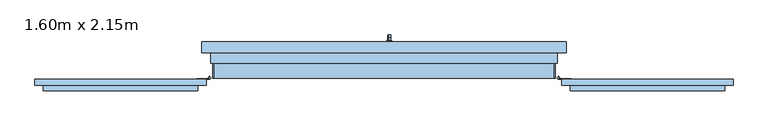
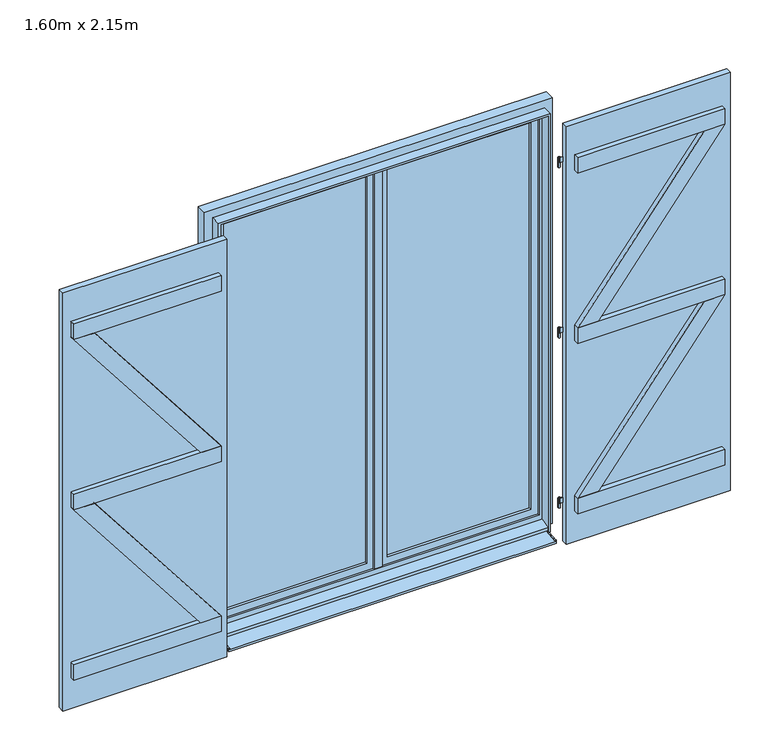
"""IFC4 building model written with IfcOpenShell, lengths in millimetres: window geometry, PF 2 Vantaux droits - Volets et petits bois : 1.60m x 2.15m."""

from ifc_helpers import new_model, si_unit, point, frame, frame_2d, origin, place, context, project, spatial, polyline, circle_curve, trimmed, segment, composite_curve, outline, extrude, faceted_brep, source, transform, mapped, element, save
from ifc_brep_helpers import plane_surface, cylinder_surface, advanced_brep


def window_1_60m_x_2_15m_4a639791(model_context):
    return source(origin(), model_context, "Body", "SolidModel", [
        extrude(outline(polyline([(-1630.0, -93.0), (-830.0, -93.0), (-830.0, -123.0), (-1630.0, -123.0), (-1630.0, -93.0)])), frame((0.0, 0.0, 25.0), z_axis=(0.0, 0.0, 1.0), x_axis=(1.0, 0.0, 0.0)), (0.0, 0.0, 1.0), 2160.0),
        advanced_brep(
        [(-810.0, -88.0, 225.0), (-820.0, -88.0, 225.0), (-810.0, -88.0, 200.0), (-820.0, -88.0, 200.0), (-817.0, -83.4174243, 205.0), (-813.0, -83.4174243, 205.0), (-813.0, -83.4174243, 215.0), (-817.0, -83.4174243, 215.0), (-813.0, -80.0, 215.0), (-817.0, -80.0, 215.0), (-817.0, -80.0, 205.0), (-813.0, -80.0, 205.0)],
        [
            (0, 1, circle_curve(frame((-815.0, -88.0, 225.0), z_axis=(0.0, 0.0, 1.0), x_axis=(-1.0, 0.0, 0.0)), 5.0)),
            (1, 0, circle_curve(frame((-815.0, -88.0, 225.0), z_axis=(0.0, 0.0, 1.0), x_axis=(-1.0, 0.0, 0.0)), 5.0)),
            (2, 3, circle_curve(frame((-815.0, -88.0, 200.0), z_axis=(0.0, 0.0, -1.0), x_axis=(-1.0, 0.0, 0.0)), 5.0)),
            (3, 2, circle_curve(frame((-815.0, -88.0, 200.0), z_axis=(0.0, 0.0, -1.0), x_axis=(-1.0, 0.0, 0.0)), 5.0)),
            (0, 2),
            (3, 1),
            (4, 5, circle_curve(frame((-815.0, -88.0, 205.0), z_axis=(0.0, 0.0, -1.0), x_axis=(-1.0, 0.0, 0.0)), 5.0)),
            (5, 6),
            (6, 7, circle_curve(frame((-815.0, -88.0, 215.0), z_axis=(0.0, 0.0, 1.0), x_axis=(-1.0, 0.0, 0.0)), 5.0)),
            (7, 4),
            (8, 9),
            (9, 7),
            (6, 8),
            (10, 11),
            (11, 5),
            (4, 10),
            (9, 10),
            (11, 8),
        ],
        [
            plane_surface(frame((-820.0, -88.0, 225.0), z_axis=(0.0, 0.0, 1.0), x_axis=(0.0, -1.0, 0.0))),
            plane_surface(frame((-820.0, -88.0, 200.0), z_axis=(0.0, 0.0, -1.0), x_axis=(0.0, 1.0, 0.0))),
            cylinder_surface(frame((-815.0, -88.0, 200.0), z_axis=(0.0, 0.0, 1.0), x_axis=(-1.0, 0.0, 0.0)), 5.0),
            plane_surface(frame((-817.0, -80.0, 215.0), z_axis=(0.0, 0.0, 1.0), x_axis=(0.0, -1.0, 0.0))),
            plane_surface(frame((-817.0, -80.0, 205.0), z_axis=(0.0, 0.0, -1.0), x_axis=(0.0, 1.0, 0.0))),
            plane_surface(frame((-817.0, -80.0, 215.0), z_axis=(-1.0, 0.0, 0.0), x_axis=(0.0, 0.0, -1.0))),
            plane_surface(frame((-813.0, -85.0, 215.0), z_axis=(1.0, 0.0, 0.0), x_axis=(0.0, 0.0, -1.0))),
            plane_surface(frame((-813.0, -80.0, 215.0), z_axis=(0.0, 1.0, 0.0), x_axis=(0.0, 0.0, -1.0))),
        ],
        [
            (0, [[1, 2]]),
            (1, [[3, 4]]),
            (2, [[-1, 5, -4, 6], [7, 8, 9, 10]]),
            (2, [[-2, -6, -3, -5]]),
            (3, [[11, 12, -9, 13]]),
            (4, [[14, 15, -7, 16]]),
            (5, [[17, -16, -10, -12]]),
            (6, [[18, -13, -8, -15]]),
            (7, [[-11, -18, -14, -17]]),
        ],
    ),
        extrude(outline(composite_curve([segment(polyline([(-815.0, -93.0), (-874.3092325, -93.0), (-874.3092325, -90.5), (-815.0, -90.5)]), True, "CONTINUOUS"), segment(trimmed(circle_curve(frame_2d((-815.0, -88.0)), 2.5), [point((-815.0, -90.5))], [point((-817.5, -88.0))], True, "CARTESIAN"), True, "CONTINUOUS"), segment(polyline([(-817.5, -88.0), (-820.0, -88.0)]), True, "CONTINUOUS"), segment(trimmed(circle_curve(frame_2d((-815.0, -88.0)), 5.0), [point((-820.0, -88.0))], [point((-815.0, -93.0))], False, "CARTESIAN"), True, "CONTINUOUS")], self_intersect=False)), frame((0.0, 0.0, 225.0), z_axis=(0.0, 0.0, 1.0), x_axis=(1.0, 0.0, 0.0)), (0.0, 0.0, 1.0), 25.0),
        extrude(outline(composite_curve([segment(trimmed(circle_curve(frame_2d((-815.0, -88.0)), 2.5), [point((-812.5, -88.0))], [point((-817.5, -88.0))], False, "CARTESIAN"), True, "CONTINUOUS"), segment(trimmed(circle_curve(frame_2d((-815.0, -88.0)), 2.5), [point((-817.5, -88.0))], [point((-812.5, -88.0))], False, "CARTESIAN"), True, "CONTINUOUS")], self_intersect=False)), frame((0.0, 0.0, 225.0), z_axis=(0.0, 0.0, 1.0), x_axis=(1.0, 0.0, 0.0)), (0.0, 0.0, 1.0), 25.0),
        advanced_brep(
        [(-810.0, -88.0, 1985.0), (-820.0, -88.0, 1985.0), (-810.0, -88.0, 1960.0), (-820.0, -88.0, 1960.0), (-813.0, -83.4174243, 1975.0), (-817.0, -83.4174243, 1975.0), (-817.0, -83.4174243, 1965.0), (-813.0, -83.4174243, 1965.0), (-813.0, -80.0, 1975.0), (-817.0, -80.0, 1975.0), (-813.0, -80.0, 1965.0), (-817.0, -80.0, 1965.0)],
        [
            (0, 1, circle_curve(frame((-815.0, -88.0, 1985.0), z_axis=(0.0, 0.0, 1.0), x_axis=(-1.0, 0.0, 0.0)), 5.0)),
            (1, 0, circle_curve(frame((-815.0, -88.0, 1985.0), z_axis=(0.0, 0.0, 1.0), x_axis=(-1.0, 0.0, 0.0)), 5.0)),
            (2, 3, circle_curve(frame((-815.0, -88.0, 1960.0), z_axis=(0.0, 0.0, -1.0), x_axis=(-1.0, 0.0, 0.0)), 5.0)),
            (3, 2, circle_curve(frame((-815.0, -88.0, 1960.0), z_axis=(0.0, 0.0, -1.0), x_axis=(-1.0, 0.0, 0.0)), 5.0)),
            (0, 2),
            (3, 1),
            (4, 5, circle_curve(frame((-815.0, -88.0, 1975.0), z_axis=(0.0, 0.0, 1.0), x_axis=(-1.0, 0.0, 0.0)), 5.0)),
            (5, 6),
            (6, 7, circle_curve(frame((-815.0, -88.0, 1965.0), z_axis=(0.0, 0.0, -1.0), x_axis=(-1.0, 0.0, 0.0)), 5.0)),
            (7, 4),
            (8, 9),
            (9, 5),
            (4, 8),
            (10, 7),
            (6, 11),
            (11, 10),
            (8, 10),
            (11, 9),
        ],
        [
            plane_surface(frame((-820.0, -88.0, 1985.0), z_axis=(0.0, 0.0, 1.0), x_axis=(0.0, -1.0, 0.0))),
            plane_surface(frame((-820.0, -88.0, 1960.0), z_axis=(0.0, 0.0, -1.0), x_axis=(0.0, 1.0, 0.0))),
            cylinder_surface(frame((-815.0, -88.0, 1960.0), z_axis=(0.0, 0.0, 1.0), x_axis=(-1.0, 0.0, 0.0)), 5.0),
            plane_surface(frame((-813.0, -80.0, 1975.0), z_axis=(0.0, 0.0, 1.0), x_axis=(-1.0, 0.0, 0.0))),
            plane_surface(frame((-813.0, -80.0, 1965.0), z_axis=(0.0, 0.0, -1.0), x_axis=(1.0, 0.0, 0.0))),
            plane_surface(frame((-813.0, -80.0, 1975.0), z_axis=(0.0, 1.0, 0.0), x_axis=(0.0, 0.0, -1.0))),
            plane_surface(frame((-817.0, -80.0, 1975.0), z_axis=(-1.0, 0.0, 0.0), x_axis=(0.0, 0.0, -1.0))),
            plane_surface(frame((-813.0, -83.4174243, 1975.0), z_axis=(1.0, 0.0, 0.0), x_axis=(0.0, 0.0, -1.0))),
        ],
        [
            (0, [[1, 2]]),
            (1, [[3, 4]]),
            (2, [[-1, 5, -4, 6], [7, 8, 9, 10]]),
            (2, [[-2, -6, -3, -5]]),
            (3, [[11, 12, -7, 13]]),
            (4, [[14, -9, 15, 16]]),
            (5, [[-11, 17, -16, 18]]),
            (6, [[-12, -18, -15, -8]]),
            (7, [[-13, -10, -14, -17]]),
        ],
    ),
        extrude(outline(polyline([(-813.0, -80.0), (-813.0, -83.4174243), (-817.0, -83.4174243), (-817.0, -80.0), (-813.0, -80.0)])), frame((0.0, 0.0, 1085.0), z_axis=(0.0, 0.0, 1.0), x_axis=(1.0, 0.0, 0.0)), (0.0, 0.0, 1.0), 10.0),
        extrude(outline(composite_curve([segment(polyline([(-815.0, -93.0), (-874.3092325, -93.0), (-874.3092325, -90.5), (-815.0, -90.5)]), True, "CONTINUOUS"), segment(trimmed(circle_curve(frame_2d((-815.0, -88.0)), 2.5), [point((-815.0, -90.5))], [point((-812.5, -88.0))], True, "CARTESIAN"), True, "CONTINUOUS"), segment(trimmed(circle_curve(frame_2d((-815.0, -88.0)), 2.5), [point((-812.5, -88.0))], [point((-817.5, -88.0))], True, "CARTESIAN"), True, "CONTINUOUS"), segment(polyline([(-817.5, -88.0), (-820.0, -88.0)]), True, "CONTINUOUS"), segment(trimmed(circle_curve(frame_2d((-815.0, -88.0)), 5.0), [point((-820.0, -88.0))], [point((-815.0, -93.0))], False, "CARTESIAN"), True, "CONTINUOUS")], self_intersect=False)), frame((0.0, 0.0, 1105.0), z_axis=(0.0, 0.0, 1.0), x_axis=(1.0, 0.0, 0.0)), (0.0, 0.0, 1.0), 25.0),
        extrude(outline(composite_curve([segment(trimmed(circle_curve(frame_2d((-815.0, -88.0)), 2.5), [point((-812.5, -88.0))], [point((-817.5, -88.0))], False, "CARTESIAN"), True, "CONTINUOUS"), segment(trimmed(circle_curve(frame_2d((-815.0, -88.0)), 2.5), [point((-817.5, -88.0))], [point((-812.5, -88.0))], False, "CARTESIAN"), True, "CONTINUOUS")], self_intersect=False)), frame((0.0, 0.0, 1105.0), z_axis=(0.0, 0.0, 1.0), x_axis=(1.0, 0.0, 0.0)), (0.0, 0.0, 1.0), 25.0),
        extrude(outline(composite_curve([segment(trimmed(circle_curve(frame_2d((-815.0, -88.0)), 5.0), [point((-810.0, -88.0))], [point((-820.0, -88.0))], False, "CARTESIAN"), True, "CONTINUOUS"), segment(trimmed(circle_curve(frame_2d((-815.0, -88.0)), 5.0), [point((-820.0, -88.0))], [point((-810.0, -88.0))], False, "CARTESIAN"), True, "CONTINUOUS")], self_intersect=False)), frame((0.0, 0.0, 1080.0), z_axis=(0.0, 0.0, 1.0), x_axis=(1.0, 0.0, 0.0)), (0.0, 0.0, 1.0), 25.0),
        extrude(outline(composite_curve([segment(polyline([(-815.0, -93.0), (-874.3092325, -93.0), (-874.3092325, -90.5), (-815.0, -90.5)]), True, "CONTINUOUS"), segment(trimmed(circle_curve(frame_2d((-815.0, -88.0)), 2.5), [point((-815.0, -90.5))], [point((-817.5, -88.0))], True, "CARTESIAN"), True, "CONTINUOUS"), segment(polyline([(-817.5, -88.0), (-820.0, -88.0)]), True, "CONTINUOUS"), segment(trimmed(circle_curve(frame_2d((-815.0, -88.0)), 5.0), [point((-820.0, -88.0))], [point((-815.0, -93.0))], False, "CARTESIAN"), True, "CONTINUOUS")], self_intersect=False)), frame((0.0, 0.0, 1985.0), z_axis=(0.0, 0.0, 1.0), x_axis=(1.0, 0.0, 0.0)), (0.0, 0.0, 1.0), 25.0),
        extrude(outline(composite_curve([segment(trimmed(circle_curve(frame_2d((-815.0, -88.0)), 2.5), [point((-812.5, -88.0))], [point((-817.5, -88.0))], False, "CARTESIAN"), True, "CONTINUOUS"), segment(trimmed(circle_curve(frame_2d((-815.0, -88.0)), 2.5), [point((-817.5, -88.0))], [point((-812.5, -88.0))], False, "CARTESIAN"), True, "CONTINUOUS")], self_intersect=False)), frame((0.0, 0.0, 1985.0), z_axis=(0.0, 0.0, 1.0), x_axis=(1.0, 0.0, 0.0)), (0.0, 0.0, 1.0), 25.0),
        extrude(outline(polyline([(1945.0, -1488.8573102), (1945.0, -1590.0), (1145.0, -971.1426898), (1145.0, -870.0), (1945.0, -1488.8573102)])), frame((0.0, -148.0, 0.0), z_axis=(0.0, 1.0, 0.0), x_axis=(0.0, 0.0, 1.0)), (0.0, 0.0, 1.0), 25.0),
        extrude(outline(polyline([(265.0, -971.143415), (265.0, -870.0007252), (1065.0, -1488.8580354), (1065.0, -1590.0007252), (265.0, -971.143415)])), frame((0.0, -148.0, 0.0), z_axis=(0.0, 1.0, 0.0), x_axis=(0.0, 0.0, 1.0)), (0.0, 0.0, 1.0), 25.0),
        extrude(outline(polyline([(-870.0, -148.0), (-1590.0, -148.0), (-1590.0, -123.0), (-870.0, -123.0), (-870.0, -148.0)])), frame((0.0, 0.0, 1945.0), z_axis=(0.0, 0.0, 1.0), x_axis=(1.0, 0.0, 0.0)), (0.0, 0.0, 1.0), 80.0),
        extrude(outline(polyline([(-870.0, -148.0), (-1590.0, -148.0), (-1590.0, -123.0), (-870.0, -123.0), (-870.0, -148.0)])), frame((0.0, 0.0, 185.0), z_axis=(0.0, 0.0, 1.0), x_axis=(1.0, 0.0, 0.0)), (0.0, 0.0, 1.0), 80.0),
        extrude(outline(polyline([(-870.0, -148.0), (-1590.0, -148.0), (-1590.0, -123.0), (-870.0, -123.0), (-870.0, -148.0)])), frame((0.0, 0.0, 1065.0), z_axis=(0.0, 0.0, 1.0), x_axis=(1.0, 0.0, 0.0)), (0.0, 0.0, 1.0), 80.0),
        extrude(outline(polyline([(1630.0, -93.0), (1630.0, -123.0), (830.0, -123.0), (830.0, -93.0), (1630.0, -93.0)])), frame((0.0, 0.0, 25.0), z_axis=(0.0, 0.0, 1.0), x_axis=(1.0, 0.0, 0.0)), (0.0, 0.0, 1.0), 2160.0),
        advanced_brep(
        [(810.0, -88.0, 225.0), (820.0, -88.0, 225.0), (810.0, -88.0, 200.0), (820.0, -88.0, 200.0), (817.0, -83.4174243, 205.0), (817.0, -83.4174243, 215.0), (813.0, -83.4174243, 215.0), (813.0, -83.4174243, 205.0), (813.0, -80.0, 215.0), (817.0, -80.0, 215.0), (817.0, -80.0, 205.0), (813.0, -80.0, 205.0)],
        [
            (0, 1, circle_curve(frame((815.0, -88.0, 225.0), z_axis=(0.0, 0.0, 1.0), x_axis=(1.0, 0.0, 0.0)), 5.0)),
            (1, 0, circle_curve(frame((815.0, -88.0, 225.0), z_axis=(0.0, 0.0, 1.0), x_axis=(1.0, 0.0, 0.0)), 5.0)),
            (2, 3, circle_curve(frame((815.0, -88.0, 200.0), z_axis=(0.0, 0.0, -1.0), x_axis=(1.0, 0.0, 0.0)), 5.0)),
            (3, 2, circle_curve(frame((815.0, -88.0, 200.0), z_axis=(0.0, 0.0, -1.0), x_axis=(1.0, 0.0, 0.0)), 5.0)),
            (1, 3),
            (2, 0),
            (4, 5),
            (5, 6, circle_curve(frame((815.0, -88.0, 215.0), z_axis=(0.0, 0.0, 1.0), x_axis=(1.0, 0.0, 0.0)), 5.0)),
            (6, 7),
            (7, 4, circle_curve(frame((815.0, -88.0, 205.0), z_axis=(0.0, 0.0, -1.0), x_axis=(1.0, 0.0, 0.0)), 5.0)),
            (8, 6),
            (5, 9),
            (9, 8),
            (10, 4),
            (7, 11),
            (11, 10),
            (10, 9),
            (8, 11),
        ],
        [
            plane_surface(frame((820.0, -88.0, 225.0), z_axis=(0.0, 0.0, 1.0), x_axis=(0.0, -1.0, 0.0))),
            plane_surface(frame((820.0, -88.0, 200.0), z_axis=(0.0, 0.0, -1.0), x_axis=(0.0, 1.0, 0.0))),
            cylinder_surface(frame((815.0, -88.0, 200.0), z_axis=(0.0, 0.0, 1.0), x_axis=(1.0, 0.0, 0.0)), 5.0),
            plane_surface(frame((817.0, -80.0, 215.0), z_axis=(0.0, 0.0, 1.0), x_axis=(0.0, -1.0, 0.0))),
            plane_surface(frame((817.0, -80.0, 205.0), z_axis=(0.0, 0.0, -1.0), x_axis=(0.0, 1.0, 0.0))),
            plane_surface(frame((817.0, -80.0, 215.0), z_axis=(1.0, 0.0, 0.0), x_axis=(0.0, 0.0, -1.0))),
            plane_surface(frame((813.0, -85.0, 215.0), z_axis=(-1.0, 0.0, 0.0), x_axis=(0.0, 0.0, -1.0))),
            plane_surface(frame((813.0, -80.0, 215.0), z_axis=(0.0, 1.0, 0.0), x_axis=(0.0, 0.0, -1.0))),
        ],
        [
            (0, [[1, 2]]),
            (1, [[3, 4]]),
            (2, [[5, -3, 6, -2], [7, 8, 9, 10]]),
            (2, [[-6, -4, -5, -1]]),
            (3, [[11, -8, 12, 13]]),
            (4, [[14, -10, 15, 16]]),
            (5, [[-12, -7, -14, 17]]),
            (6, [[-15, -9, -11, 18]]),
            (7, [[-17, -16, -18, -13]]),
        ],
    ),
        extrude(outline(composite_curve([segment(trimmed(circle_curve(frame_2d((815.0, -88.0)), 5.0), [point((815.0, -93.0))], [point((820.0, -88.0))], False, "CARTESIAN"), True, "CONTINUOUS"), segment(polyline([(820.0, -88.0), (817.5, -88.0)]), True, "CONTINUOUS"), segment(trimmed(circle_curve(frame_2d((815.0, -88.0)), 2.5), [point((817.5, -88.0))], [point((815.0, -90.5))], True, "CARTESIAN"), True, "CONTINUOUS"), segment(polyline([(815.0, -90.5), (874.3092325, -90.5), (874.3092325, -93.0), (815.0, -93.0)]), True, "CONTINUOUS")], self_intersect=False)), frame((0.0, 0.0, 225.0), z_axis=(0.0, 0.0, 1.0), x_axis=(1.0, 0.0, 0.0)), (0.0, 0.0, 1.0), 25.0),
        extrude(outline(composite_curve([segment(trimmed(circle_curve(frame_2d((815.0, -88.0)), 2.5), [point((812.5, -88.0))], [point((817.5, -88.0))], False, "CARTESIAN"), True, "CONTINUOUS"), segment(trimmed(circle_curve(frame_2d((815.0, -88.0)), 2.5), [point((817.5, -88.0))], [point((812.5, -88.0))], False, "CARTESIAN"), True, "CONTINUOUS")], self_intersect=False)), frame((0.0, 0.0, 225.0), z_axis=(0.0, 0.0, 1.0), x_axis=(1.0, 0.0, 0.0)), (0.0, 0.0, 1.0), 25.0),
        advanced_brep(
        [(810.0, -88.0, 1985.0), (820.0, -88.0, 1985.0), (810.0, -88.0, 1960.0), (820.0, -88.0, 1960.0), (813.0, -83.4174243, 1975.0), (813.0, -83.4174243, 1965.0), (817.0, -83.4174243, 1965.0), (817.0, -83.4174243, 1975.0), (813.0, -80.0, 1975.0), (817.0, -80.0, 1975.0), (813.0, -80.0, 1965.0), (817.0, -80.0, 1965.0)],
        [
            (0, 1, circle_curve(frame((815.0, -88.0, 1985.0), z_axis=(0.0, 0.0, 1.0), x_axis=(1.0, 0.0, 0.0)), 5.0)),
            (1, 0, circle_curve(frame((815.0, -88.0, 1985.0), z_axis=(0.0, 0.0, 1.0), x_axis=(1.0, 0.0, 0.0)), 5.0)),
            (2, 3, circle_curve(frame((815.0, -88.0, 1960.0), z_axis=(0.0, 0.0, -1.0), x_axis=(1.0, 0.0, 0.0)), 5.0)),
            (3, 2, circle_curve(frame((815.0, -88.0, 1960.0), z_axis=(0.0, 0.0, -1.0), x_axis=(1.0, 0.0, 0.0)), 5.0)),
            (1, 3),
            (2, 0),
            (4, 5),
            (5, 6, circle_curve(frame((815.0, -88.0, 1965.0), z_axis=(0.0, 0.0, -1.0), x_axis=(1.0, 0.0, 0.0)), 5.0)),
            (6, 7),
            (7, 4, circle_curve(frame((815.0, -88.0, 1975.0), z_axis=(0.0, 0.0, 1.0), x_axis=(1.0, 0.0, 0.0)), 5.0)),
            (8, 4),
            (7, 9),
            (9, 8),
            (10, 11),
            (11, 6),
            (5, 10),
            (9, 11),
            (10, 8),
        ],
        [
            plane_surface(frame((820.0, -88.0, 1985.0), z_axis=(0.0, 0.0, 1.0), x_axis=(0.0, -1.0, 0.0))),
            plane_surface(frame((820.0, -88.0, 1960.0), z_axis=(0.0, 0.0, -1.0), x_axis=(0.0, 1.0, 0.0))),
            cylinder_surface(frame((815.0, -88.0, 1960.0), z_axis=(0.0, 0.0, 1.0), x_axis=(1.0, 0.0, 0.0)), 5.0),
            plane_surface(frame((813.0, -80.0, 1975.0), z_axis=(0.0, 0.0, 1.0), x_axis=(1.0, 0.0, 0.0))),
            plane_surface(frame((813.0, -80.0, 1965.0), z_axis=(0.0, 0.0, -1.0), x_axis=(-1.0, 0.0, 0.0))),
            plane_surface(frame((813.0, -80.0, 1975.0), z_axis=(0.0, 1.0, 0.0), x_axis=(0.0, 0.0, -1.0))),
            plane_surface(frame((817.0, -80.0, 1975.0), z_axis=(1.0, 0.0, 0.0), x_axis=(0.0, 0.0, -1.0))),
            plane_surface(frame((813.0, -83.4174243, 1975.0), z_axis=(-1.0, 0.0, 0.0), x_axis=(0.0, 0.0, -1.0))),
        ],
        [
            (0, [[1, 2]]),
            (1, [[3, 4]]),
            (2, [[5, -3, 6, -2], [7, 8, 9, 10]]),
            (2, [[-6, -4, -5, -1]]),
            (3, [[11, -10, 12, 13]]),
            (4, [[14, 15, -8, 16]]),
            (5, [[17, -14, 18, -13]]),
            (6, [[-9, -15, -17, -12]]),
            (7, [[-18, -16, -7, -11]]),
        ],
    ),
        extrude(outline(polyline([(813.0, -80.0), (817.0, -80.0), (817.0, -83.4174243), (813.0, -83.4174243), (813.0, -80.0)])), frame((0.0, 0.0, 1085.0), z_axis=(0.0, 0.0, 1.0), x_axis=(1.0, 0.0, 0.0)), (0.0, 0.0, 1.0), 10.0),
        extrude(outline(composite_curve([segment(trimmed(circle_curve(frame_2d((815.0, -88.0)), 5.0), [point((815.0, -93.0))], [point((820.0, -88.0))], False, "CARTESIAN"), True, "CONTINUOUS"), segment(polyline([(820.0, -88.0), (817.5, -88.0)]), True, "CONTINUOUS"), segment(trimmed(circle_curve(frame_2d((815.0, -88.0)), 2.5), [point((817.5, -88.0))], [point((812.5, -88.0))], True, "CARTESIAN"), True, "CONTINUOUS"), segment(trimmed(circle_curve(frame_2d((815.0, -88.0)), 2.5), [point((812.5, -88.0))], [point((815.0, -90.5))], True, "CARTESIAN"), True, "CONTINUOUS"), segment(polyline([(815.0, -90.5), (874.3092325, -90.5), (874.3092325, -93.0), (815.0, -93.0)]), True, "CONTINUOUS")], self_intersect=False)), frame((0.0, 0.0, 1105.0), z_axis=(0.0, 0.0, 1.0), x_axis=(1.0, 0.0, 0.0)), (0.0, 0.0, 1.0), 25.0),
        extrude(outline(composite_curve([segment(trimmed(circle_curve(frame_2d((815.0, -88.0)), 2.5), [point((812.5, -88.0))], [point((817.5, -88.0))], False, "CARTESIAN"), True, "CONTINUOUS"), segment(trimmed(circle_curve(frame_2d((815.0, -88.0)), 2.5), [point((817.5, -88.0))], [point((812.5, -88.0))], False, "CARTESIAN"), True, "CONTINUOUS")], self_intersect=False)), frame((0.0, 0.0, 1105.0), z_axis=(0.0, 0.0, 1.0), x_axis=(1.0, 0.0, 0.0)), (0.0, 0.0, 1.0), 25.0),
        extrude(outline(composite_curve([segment(trimmed(circle_curve(frame_2d((815.0, -88.0)), 5.0), [point((810.0, -88.0))], [point((820.0, -88.0))], False, "CARTESIAN"), True, "CONTINUOUS"), segment(trimmed(circle_curve(frame_2d((815.0, -88.0)), 5.0), [point((820.0, -88.0))], [point((810.0, -88.0))], False, "CARTESIAN"), True, "CONTINUOUS")], self_intersect=False)), frame((0.0, 0.0, 1080.0), z_axis=(0.0, 0.0, 1.0), x_axis=(1.0, 0.0, 0.0)), (0.0, 0.0, 1.0), 25.0),
        extrude(outline(composite_curve([segment(trimmed(circle_curve(frame_2d((815.0, -88.0)), 5.0), [point((815.0, -93.0))], [point((820.0, -88.0))], False, "CARTESIAN"), True, "CONTINUOUS"), segment(polyline([(820.0, -88.0), (817.5, -88.0)]), True, "CONTINUOUS"), segment(trimmed(circle_curve(frame_2d((815.0, -88.0)), 2.5), [point((817.5, -88.0))], [point((815.0, -90.5))], True, "CARTESIAN"), True, "CONTINUOUS"), segment(polyline([(815.0, -90.5), (874.3092325, -90.5), (874.3092325, -93.0), (815.0, -93.0)]), True, "CONTINUOUS")], self_intersect=False)), frame((0.0, 0.0, 1985.0), z_axis=(0.0, 0.0, 1.0), x_axis=(1.0, 0.0, 0.0)), (0.0, 0.0, 1.0), 25.0),
        extrude(outline(composite_curve([segment(trimmed(circle_curve(frame_2d((815.0, -88.0)), 2.5), [point((812.5, -88.0))], [point((817.5, -88.0))], False, "CARTESIAN"), True, "CONTINUOUS"), segment(trimmed(circle_curve(frame_2d((815.0, -88.0)), 2.5), [point((817.5, -88.0))], [point((812.5, -88.0))], False, "CARTESIAN"), True, "CONTINUOUS")], self_intersect=False)), frame((0.0, 0.0, 1985.0), z_axis=(0.0, 0.0, 1.0), x_axis=(1.0, 0.0, 0.0)), (0.0, 0.0, 1.0), 25.0),
        extrude(outline(polyline([(1945.0, 1488.8573102), (1145.0, 870.0), (1145.0, 971.1426898), (1945.0, 1590.0), (1945.0, 1488.8573102)])), frame((0.0, -148.0, 0.0), z_axis=(0.0, 1.0, 0.0), x_axis=(0.0, 0.0, 1.0)), (0.0, 0.0, 1.0), 25.0),
        extrude(outline(polyline([(265.0, 971.143415), (1065.0, 1590.0007252), (1065.0, 1488.8580354), (265.0, 870.0007252), (265.0, 971.143415)])), frame((0.0, -148.0, 0.0), z_axis=(0.0, 1.0, 0.0), x_axis=(0.0, 0.0, 1.0)), (0.0, 0.0, 1.0), 25.0),
        extrude(outline(polyline([(870.0, -148.0), (870.0, -123.0), (1590.0, -123.0), (1590.0, -148.0), (870.0, -148.0)])), frame((0.0, 0.0, 1945.0), z_axis=(0.0, 0.0, 1.0), x_axis=(1.0, 0.0, 0.0)), (0.0, 0.0, 1.0), 80.0),
        extrude(outline(polyline([(870.0, -148.0), (870.0, -123.0), (1590.0, -123.0), (1590.0, -148.0), (870.0, -148.0)])), frame((0.0, 0.0, 185.0), z_axis=(0.0, 0.0, 1.0), x_axis=(1.0, 0.0, 0.0)), (0.0, 0.0, 1.0), 80.0),
        extrude(outline(polyline([(870.0, -148.0), (870.0, -123.0), (1590.0, -123.0), (1590.0, -148.0), (870.0, -148.0)])), frame((0.0, 0.0, 1065.0), z_axis=(0.0, 0.0, 1.0), x_axis=(1.0, 0.0, 0.0)), (0.0, 0.0, 1.0), 80.0),
        faceted_brep([(30.6460097, 86.0, 1122.0339292), (19.3539903, 86.0, 1122.0339292), (17.9660708, 86.0, 1120.6460097), (17.9660708, 86.0, 1109.3323012), (19.3323012, 86.0, 1107.9660708), (30.6676988, 86.0, 1107.9660708), (32.0339292, 86.0, 1109.3323012), (32.0339292, 86.0, 1120.6460097), (32.0339292, 98.3386538, 1120.6460097), (30.6460097, 98.9135489, 1122.0339292), (32.0339292, 93.6523623, 1109.3323012), (32.0339292, 100.3323012, 1102.6523623), (32.0339292, 100.3323012, 1020.0), (32.0339292, 111.6460097, 1020.0), (32.0339292, 111.6460097, 1107.3386538), (30.6676988, 93.0864511, 1107.9660708), (19.3323012, 93.0864511, 1107.9660708), (17.9660708, 93.6523623, 1109.3323012), (17.9660708, 98.3386538, 1120.6460097), (17.9660708, 111.6460097, 1107.3386538), (17.9660708, 111.6460097, 1020.0), (17.9660708, 100.3323012, 1020.0), (17.9660708, 100.3323012, 1102.6523623), (19.3539903, 98.9135489, 1122.0339292), (30.6460097, 113.0339292, 1107.9135489), (30.6676988, 98.9660708, 1102.0864511), (19.3323012, 98.9660708, 1102.0864511), (19.3539903, 113.0339292, 1107.9135489), (30.6460097, 113.0339292, 1020.0), (30.6676988, 98.9660708, 1020.0), (19.3323012, 98.9660708, 1020.0), (19.3539903, 113.0339292, 1020.0)], [[[0, 1, 2, 3, 4, 5, 6, 7]], [[7, 8, 9, 0]], [[6, 10, 11, 12, 13, 14, 8, 7]], [[5, 15, 10, 6]], [[4, 16, 15, 5]], [[3, 17, 16, 4]], [[2, 18, 19, 20, 21, 22, 17, 3]], [[1, 23, 18, 2]], [[0, 9, 23, 1]], [[8, 14, 24, 9]], [[15, 25, 11, 10]], [[16, 26, 25, 15]], [[17, 22, 26, 16]], [[23, 27, 19, 18]], [[9, 24, 27, 23]], [[28, 13, 12, 29, 30, 21, 20, 31]], [[14, 13, 28, 24]], [[25, 29, 12, 11]], [[26, 30, 29, 25]], [[22, 21, 30, 26]], [[27, 31, 20, 19]], [[24, 28, 31, 27]]]),
        extrude(outline(polyline([(1140.0, 32.0), (1140.0, 18.0), (1135.0, 13.0), (1065.0, 13.0), (1060.0, 18.0), (1060.0, 32.0), (1065.0, 37.0), (1135.0, 37.0), (1140.0, 32.0)])), frame((0.0, 80.0, 0.0), z_axis=(0.0, 1.0, 0.0), x_axis=(0.0, 0.0, 1.0)), (0.0, 0.0, 1.0), 6.0),
        extrude(outline(polyline([(-90.0288776, 30.7927954), (-5.0, 39.7296906), (-5.0, 50.0), (0.0, 50.0), (0.0, 35.0), (-85.0288776, 26.0631048), (-85.0288776, 20.2401141), (-90.0288776, 19.7145929), (-90.0288776, 30.7927954)])), frame((-800.0, 0.0, 0.0), z_axis=(1.0, 0.0, 0.0), x_axis=(0.0, 1.0, 0.0)), (0.0, 0.0, 1.0), 1600.0),
        extrude(outline(composite_curve([segment(polyline([(-90.0288776, 30.7927954), (-90.0288776, 32.2187207)]), True, "CONTINUOUS"), segment(trimmed(circle_curve(frame_2d((-86.0288776, 32.2187207)), 4.0), [point((-90.0288776, 32.2187207))], [point((-86.4469915, 36.1968082))], False, "CARTESIAN"), True, "CONTINUOUS"), segment(polyline([(-86.4469915, 36.1968082), (-5.0, 44.757232), (-5.0, 39.7296906), (-90.0288776, 30.7927954)]), True, "CONTINUOUS")], self_intersect=False)), frame((-800.0, 0.0, 0.0), z_axis=(1.0, 0.0, 0.0), x_axis=(0.0, 1.0, 0.0)), (0.0, 0.0, 1.0), 5.0),
        extrude(outline(composite_curve([segment(polyline([(-90.0288776, 30.7927954), (-90.0288776, 32.2187207)]), True, "CONTINUOUS"), segment(trimmed(circle_curve(frame_2d((-86.0288776, 32.2187207)), 4.0), [point((-90.0288776, 32.2187207))], [point((-86.4469915, 36.1968082))], False, "CARTESIAN"), True, "CONTINUOUS"), segment(polyline([(-86.4469915, 36.1968082), (-5.0, 44.757232), (-5.0, 39.7296906), (-90.0288776, 30.7927954)]), True, "CONTINUOUS")], self_intersect=False)), frame((795.0, 0.0, 0.0), z_axis=(1.0, 0.0, 0.0), x_axis=(0.0, 1.0, 0.0)), (0.0, 0.0, 1.0), 5.0),
        extrude(outline(polyline([(85.0, -800.0), (85.0, 0.0), (2185.0, 0.0), (2185.0, -800.0), (85.0, -800.0)]), holes=[polyline([(135.0, -50.0), (135.0, -750.0), (2135.0, -750.0), (2135.0, -50.0), (135.0, -50.0)])]), frame((0.0, 40.0, 0.0), z_axis=(0.0, 1.0, 0.0), x_axis=(0.0, 0.0, 1.0)), (0.0, 0.0, 1.0), 40.0),
        extrude(outline(polyline([(50.0, 54.0), (50.0, 66.0), (750.0, 66.0), (750.0, 54.0), (50.0, 54.0)])), frame((0.0, 0.0, 135.0), z_axis=(0.0, 0.0, 1.0), x_axis=(1.0, 0.0, 0.0)), (0.0, 0.0, 1.0), 2000.0),
        extrude(outline(polyline([(-750.0, 54.0), (-750.0, 66.0), (-50.0, 66.0), (-50.0, 54.0), (-750.0, 54.0)])), frame((0.0, 0.0, 135.0), z_axis=(0.0, 0.0, 1.0), x_axis=(1.0, 0.0, 0.0)), (0.0, 0.0, 1.0), 2000.0),
        extrude(outline(polyline([(85.0, 0.0), (85.0, 800.0), (2185.0, 800.0), (2185.0, 0.0), (85.0, 0.0)]), holes=[polyline([(135.0, 750.0), (135.0, 50.0), (2135.0, 50.0), (2135.0, 750.0), (135.0, 750.0)])]), frame((0.0, 40.0, 0.0), z_axis=(0.0, 1.0, 0.0), x_axis=(0.0, 0.0, 1.0)), (0.0, 0.0, 1.0), 40.0),
        faceted_brep([(-850.0, 80.0, 35.0), (850.0, 80.0, 35.0), (850.0, 30.0, 35.0), (800.0, 30.0, 35.0), (800.0, 0.0, 35.0), (-800.0, 0.0, 35.0), (-800.0, 30.0, 35.0), (-850.0, 30.0, 35.0), (-850.0, 30.0, 2235.0), (-850.0, 80.0, 2235.0), (-800.0, 30.0, 74.3761425), (800.0, 30.0, 74.3761425), (850.0, 30.0, 2235.0), (-785.0, 30.0, 2170.0), (785.0, 30.0, 2170.0), (785.0, 30.0, 100.0), (-785.0, 30.0, 100.0), (-800.0, 0.0, 50.0), (-800.0, -10.0, 50.0), (-800.0, -10.0, 45.0), (-800.0, -20.0, 45.0), (-800.0, -20.0, 60.9786829), (800.0, 0.0, 50.0), (800.0, -20.0, 60.9786829), (800.0, -20.0, 45.0), (800.0, -10.0, 45.0), (800.0, -10.0, 50.0), (850.0, 80.0, 2235.0), (800.0, 80.0, 2185.0), (-800.0, 80.0, 2185.0), (-800.0, 80.0, 85.0), (800.0, 80.0, 85.0), (-785.0, 40.0, 100.0), (-785.0, 40.0, 2170.0), (785.0, 40.0, 100.0), (785.0, 40.0, 2170.0), (800.0, 40.0, 2185.0), (800.0, 40.0, 85.0), (-800.0, 40.0, 85.0), (-800.0, 40.0, 2185.0)], [[[0, 1, 2, 3, 4, 5, 6, 7]], [[7, 8, 9, 0]], [[7, 6, 10, 11, 3, 2, 12, 8], [13, 14, 15, 16]], [[10, 6, 5, 17, 18, 19, 20, 21]], [[5, 4, 22, 17]], [[4, 3, 11, 23, 24, 25, 26, 22]], [[2, 1, 27, 12]], [[0, 9, 27, 1], [28, 29, 30, 31]], [[13, 16, 32, 33]], [[32, 16, 15, 34]], [[35, 34, 15, 14]], [[21, 23, 11, 10]], [[36, 37, 38, 39], [33, 32, 34, 35]], [[38, 30, 29, 39]], [[30, 38, 37, 31]], [[28, 31, 37, 36]], [[20, 24, 23, 21]], [[19, 25, 24, 20]], [[18, 26, 25, 19]], [[17, 22, 26, 18]], [[13, 33, 35, 14]], [[39, 29, 28, 36]], [[12, 27, 9, 8]]]),
        extrude(outline(polyline([(35.0, -800.0), (2185.0, -800.0), (2185.0, 800.0), (35.0, 800.0), (35.0, 810.0), (2195.0, 810.0), (2195.0, -810.0), (35.0, -810.0), (35.0, -800.0)])), frame((0.0, -20.0, 0.0), z_axis=(0.0, 1.0, 0.0), x_axis=(0.0, 0.0, 1.0)), (0.0, 0.0, 1.0), 50.0),
        extrude(outline(polyline([(20.0, 32.0), (-20.0, 32.0), (-20.0, 40.0), (20.0, 40.0), (20.0, 32.0)])), frame((0.0, 0.0, 100.0), z_axis=(0.0, 0.0, 1.0), x_axis=(1.0, 0.0, 0.0)), (0.0, 0.0, 1.0), 2070.0),
    ])


if __name__ == "__main__":
    model = new_model("IFC4")
    model_context = context("Model", 3, world=origin())
    ifc_project = project(units=[si_unit("LENGTHUNIT", "METRE", prefix="MILLI")], contexts=[model_context])
    site = spatial("IfcSite", under=ifc_project)
    building = spatial("IfcBuilding", under=site)
    placement = place(None, origin())
    window_1_60m_x_2_15m_shape = window_1_60m_x_2_15m_4a639791(model_context)
    element("IfcWindow", 1, ObjectType="PF 2 Vantaux droits - Volets et petits bois : 1.60m x 2.15m", at=placement, inside=building, context=model_context, shape_type="MappedRepresentation", body=[
        mapped(window_1_60m_x_2_15m_shape, transform((0.0, 0.0, 0.0), x_axis=(1.0, 0.0, 0.0), y_axis=(0.0, 1.0, 0.0), z_axis=(0.0, 0.0, 1.0))),
    ])
    save(model, "model.ifc")
